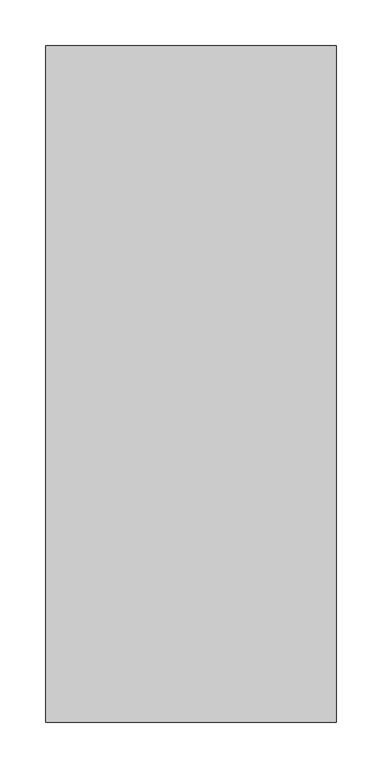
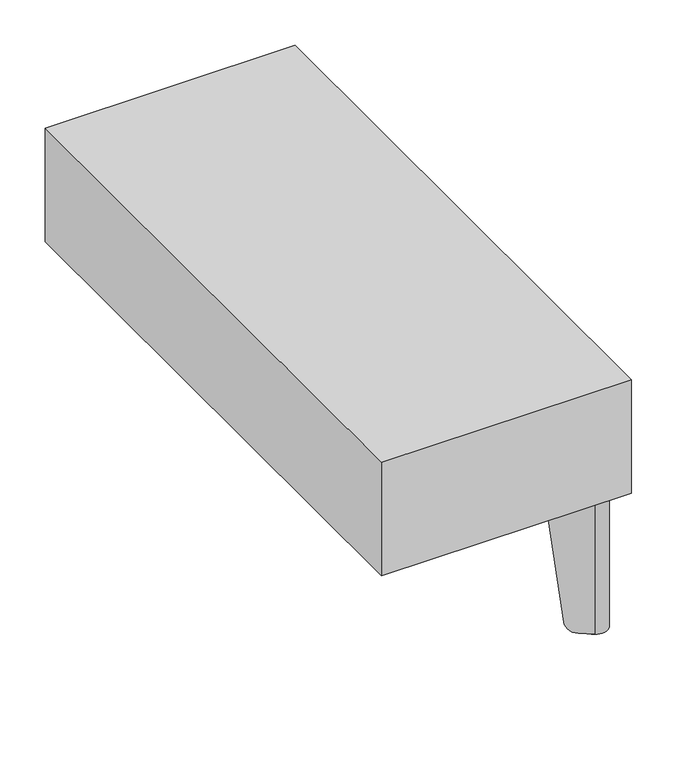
"""IFC4 building model written with IfcOpenShell, lengths in millimetres: furniture geometry, Stance_HC-Flora-Table_Straight : FAT132914E-P."""

from ifc_helpers import new_model, si_unit, point, frame, frame_2d, origin, origin_with_axes, place, context, project, spatial, polyline, circle_curve, ellipse_curve, trimmed, segment, composite_curve, outline, extrude, source, transform, mapped, element, save
from ifc_brep_helpers import plane_surface, cylinder_surface, revolved_surface, advanced_brep


def furniture_cdac94fe(model_context):
    return source(origin(), model_context, "Body", "SolidModel", [
        advanced_brep(
        [(274.3401042, -102.8613619, 193.6877233), (306.2642107, -57.26919, 193.6877233), (285.6391871, -36.6441664, 193.6877233), (240.0470178, -68.568271, 193.6877233), (241.8906556, -71.2012484, 193.6877233), (287.4828248, -39.2771437, 193.6877233), (303.6312333, -55.4255523, 193.6877233), (271.7071268, -101.0177242, 193.6877233), (274.3401042, -102.8613619, 189.1419595), (303.6312333, -55.4255523, 3.1876992), (293.5105238, -69.8793673, 3.1876992), (284.3334277, -82.9855678, 17.1280233), (287.4828248, -39.2771437, 3.1876992), (259.9228092, -58.5749494, 17.1280233), (273.0290098, -49.3978533, 3.1876992), (240.0470178, -68.568271, 189.1419334), (285.6391871, -36.6441664, 3.1876992), (270.7211121, -47.0899556, 3.1876992), (257.6149115, -56.2670517, 17.1280233), (306.2642107, -57.26919, 3.1876992), (286.6413254, -85.2934656, 17.1280233), (295.8184215, -72.187265, 3.1876992)],
        [
            (0, 1),
            (1, 2, circle_curve(frame((294.1333442, -48.7750329, 193.6877233), z_axis=(0.0, 0.0, 1.0), x_axis=(-1.0, 0.0, 0.0)), 14.8090724)),
            (2, 3),
            (3, 4),
            (4, 5),
            (5, 6, circle_curve(frame((294.1333442, -48.7750329, 193.6877233), z_axis=(0.0, 0.0, -1.0), x_axis=(-1.0, 0.0, 0.0)), 11.5947965)),
            (6, 7),
            (7, 0),
            (7, 8),
            (8, 0),
            (6, 9),
            (9, 10),
            (10, 11, ellipse_curve(frame((293.5105238, -69.8793673, 19.0626992), z_axis=(-0.8191509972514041, 0.5735779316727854, 0.0), x_axis=(-0.5735779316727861, -0.8191509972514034, 0.0)), 16.1198923, 15.875)),
            (11, 7),
            (5, 12),
            (12, 9, circle_curve(frame((294.1333442, -48.7750329, 3.1876992), z_axis=(0.0, 0.0, -1.0), x_axis=(-1.0, 0.0, 0.0)), 11.5947965)),
            (4, 13),
            (13, 14, ellipse_curve(frame((273.0290098, -49.3978533, 19.0626992), z_axis=(0.5735779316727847, -0.8191509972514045, 0.0), x_axis=(0.8191509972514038, 0.5735779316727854, 0.0)), 16.1198923, 15.875)),
            (14, 12),
            (3, 15),
            (15, 4),
            (2, 16),
            (16, 17),
            (17, 18, ellipse_curve(frame((270.7211121, -47.0899556, 19.0626992), z_axis=(-0.5735779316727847, 0.8191509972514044, 0.0), x_axis=(0.8191509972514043, 0.573577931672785, 0.0)), 16.1198923, 15.875)),
            (18, 15),
            (1, 19),
            (19, 16, circle_curve(frame((294.1333442, -48.7750329, 3.1876992), z_axis=(0.0, 0.0, 1.0), x_axis=(-1.0, 0.0, 0.0)), 14.8090724)),
            (8, 20),
            (20, 21, ellipse_curve(frame((295.8184215, -72.187265, 19.0626992), z_axis=(0.8191509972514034, -0.5735779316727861, 0.0), x_axis=(-0.5735779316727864, -0.8191509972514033, 0.0)), 16.1198923, 15.875)),
            (21, 19),
            (18, 13),
            (11, 20),
            (21, 10),
            (14, 17),
        ],
        [
            plane_surface(frame((271.7071268, -101.0177242, 193.6877233), z_axis=(0.0, 0.0, 1.0000000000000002), x_axis=(-0.8191509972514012, 0.5735779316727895, 0.0))),
            plane_surface(frame((274.3401042, -102.8613619, 193.6877233), z_axis=(-0.5735779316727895, -0.8191509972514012, 0.0), x_axis=(0.0, 0.0, -1.0))),
            plane_surface(frame((271.7071268, -101.0177242, 193.6877233), z_axis=(-0.8191509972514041, 0.5735779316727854, 0.0), x_axis=(0.0, 0.0, -1.0))),
            revolved_surface(polyline([(282.53854770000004, -48.7750329, 3.1876992), (282.53854770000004, -48.7750329, 193.6877233)]), (294.1333442, -48.7750329, 0.0), (0.0, 0.0, -1.0)),
            plane_surface(frame((287.4828248, -39.2771437, 193.6877233), z_axis=(0.5735779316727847, -0.8191509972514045, 0.0), x_axis=(0.0, 0.0, -1.0))),
            plane_surface(frame((241.8906556, -71.2012484, 193.6877233), z_axis=(-0.8191509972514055, -0.5735779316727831, 0.0), x_axis=(0.0, 0.0, -1.0))),
            plane_surface(frame((240.0470178, -68.568271, 193.6877233), z_axis=(-0.5735779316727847, 0.8191509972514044, 0.0), x_axis=(0.0, 0.0, -1.0))),
            cylinder_surface(frame((294.1333442, -48.7750329, 0.0), z_axis=(0.0, 0.0, 1.0), x_axis=(-1.0, 0.0, 0.0)), 14.8090724),
            plane_surface(frame((306.2642107, -57.26919, 193.6877233), z_axis=(0.8191509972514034, -0.5735779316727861, 0.0), x_axis=(0.0, 0.0, -1.0))),
            plane_surface(frame((251.7311084, -50.3832485, 17.1280233), z_axis=(-0.7018361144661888, -0.7018361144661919, -0.12186934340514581), x_axis=(0.7071067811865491, -0.707106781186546, 0.0))),
            plane_surface(frame((284.2214639, -17.8928931, 3.1876992), z_axis=(0.0, 0.0, -1.0), x_axis=(0.707106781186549, -0.707106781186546, 0.0))),
            cylinder_surface(frame((303.6583998, -80.0272433, 19.0626992), z_axis=(0.7071067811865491, -0.707106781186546, 0.0), x_axis=(-0.707106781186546, -0.7071067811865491, 0.0)), 15.875),
        ],
        [
            (0, [[1, 2, 3, 4, 5, 6, 7, 8]]),
            (1, [[9, 10, -8]]),
            (2, [[11, 12, 13, 14, -7]]),
            (3, [[15, 16, -11, -6]]),
            (4, [[17, 18, 19, -15, -5]]),
            (5, [[20, 21, -4]]),
            (6, [[22, 23, 24, 25, -20, -3]]),
            (7, [[26, 27, -22, -2]]),
            (8, [[-10, 28, 29, 30, -26, -1]]),
            (9, [[-17, -21, -25, 31]]),
            (9, [[-28, -9, -14, 32]]),
            (10, [[-23, -27, -30, 33, -12, -16, -19, 34]]),
            (11, [[-13, -33, -29, -32]]),
            (11, [[-24, -34, -18, -31]]),
        ],
    ),
        extrude(outline(composite_curve([segment(trimmed(circle_curve(frame_2d((292.1, -50.8)), 11.1125), [point((303.2125, -50.8))], [point((280.9875, -50.8))], False, "CARTESIAN"), True, "CONTINUOUS"), segment(trimmed(circle_curve(frame_2d((292.1, -50.8)), 11.1125), [point((280.9875, -50.8))], [point((303.2125, -50.8))], False, "CARTESIAN"), True, "CONTINUOUS")], self_intersect=False)), origin_with_axes(), (0.0, 0.0, 1.0), 3.175),
        extrude(outline(composite_curve([segment(trimmed(circle_curve(frame_2d((295.4524523, -47.4559239)), 15.8749964), [point((294.3450687, -31.6195983))], [point((311.288778, -48.5633073))], False, "CARTESIAN"), True, "CONTINUOUS"), segment(polyline([(311.288778, -48.5633073), (304.2918062, -148.6247029), (274.4414324, -178.4750713), (190.4983323, -152.4100523), (164.4332978, -68.4669439), (194.2836699, -38.6165718), (294.3450687, -31.6195983)]), True, "CONTINUOUS")], self_intersect=False)), frame((0.0, 0.0, 193.6877233), z_axis=(0.0, 0.0, 1.0), x_axis=(1.0, 0.0, 0.0)), (0.0, 0.0, 1.0), 4.7751809),
        advanced_brep(
        [(274.3401042, -659.1386381, 193.6877233), (271.7071268, -660.9822758, 193.6877233), (303.6312333, -706.5744477, 193.6877233), (287.4828248, -722.7228563, 193.6877233), (241.8906556, -690.7987516, 193.6877233), (240.0470178, -693.431729, 193.6877233), (285.6391871, -725.3558336, 193.6877233), (306.2642107, -704.73081, 193.6877233), (274.3401042, -659.1386381, 189.1419595), (284.3334277, -679.0144322, 17.1280233), (293.5105238, -692.1206327, 3.1876992), (303.6312333, -706.5744477, 3.1876992), (287.4828248, -722.7228563, 3.1876992), (273.0290098, -712.6021467, 3.1876992), (259.9228092, -703.4250506, 17.1280233), (240.0470178, -693.431729, 189.1419334), (257.6149115, -705.7329483, 17.1280233), (270.7211121, -714.9100444, 3.1876992), (285.6391871, -725.3558336, 3.1876992), (306.2642107, -704.73081, 3.1876992), (295.8184215, -689.812735, 3.1876992), (286.6413254, -676.7065344, 17.1280233)],
        [
            (0, 1),
            (1, 2),
            (2, 3, circle_curve(frame((294.1333442, -713.2249671, 193.6877233), z_axis=(0.0, 0.0, -1.0), x_axis=(-1.0, 0.0, 0.0)), 11.5947965)),
            (3, 4),
            (4, 5),
            (5, 6),
            (6, 7, circle_curve(frame((294.1333442, -713.2249671, 193.6877233), z_axis=(0.0, 0.0, 1.0), x_axis=(-1.0, 0.0, 0.0)), 14.8090724)),
            (7, 0),
            (0, 8),
            (8, 1),
            (1, 9),
            (9, 10, ellipse_curve(frame((293.5105238, -692.1206327, 19.0626992), z_axis=(-0.8191509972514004, -0.5735779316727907, 0.0), x_axis=(-0.5735779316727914, 0.8191509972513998, 0.0)), 16.1198923, 15.875)),
            (10, 11),
            (11, 2),
            (11, 12, circle_curve(frame((294.1333442, -713.2249671, 3.1876992), z_axis=(0.0, 0.0, -1.0), x_axis=(-1.0, 0.0, 0.0)), 11.5947965)),
            (12, 3),
            (12, 13),
            (13, 14, ellipse_curve(frame((273.0290098, -712.6021467, 19.0626992), z_axis=(0.5735779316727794, 0.8191509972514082, 0.0), x_axis=(0.8191509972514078, -0.5735779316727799, 0.0)), 16.1198923, 15.875)),
            (14, 4),
            (4, 15),
            (15, 5),
            (15, 16),
            (16, 17, ellipse_curve(frame((270.7211121, -714.9100444, 19.0626992), z_axis=(-0.5735779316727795, -0.8191509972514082, 0.0), x_axis=(0.8191509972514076, -0.5735779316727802, 0.0)), 16.1198923, 15.875)),
            (17, 18),
            (18, 6),
            (18, 19, circle_curve(frame((294.1333442, -713.2249671, 3.1876992), z_axis=(0.0, 0.0, 1.0), x_axis=(-1.0, 0.0, 0.0)), 14.8090724)),
            (19, 7),
            (19, 20),
            (20, 21, ellipse_curve(frame((295.8184215, -689.812735, 19.0626992), z_axis=(0.8191509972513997, 0.5735779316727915, 0.0), x_axis=(-0.573577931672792, 0.8191509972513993, 0.0)), 16.1198923, 15.875)),
            (21, 8),
            (14, 16),
            (21, 9),
            (17, 13),
            (10, 20),
        ],
        [
            plane_surface(frame((271.7071268, -660.9822758, 193.6877233), z_axis=(0.0, 0.0, 0.9999999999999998), x_axis=(-0.8191509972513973, -0.5735779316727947, 0.0))),
            plane_surface(frame((274.3401042, -659.1386381, 193.6877233), z_axis=(-0.5735779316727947, 0.8191509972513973, 0.0), x_axis=(0.0, 0.0, -1.0))),
            plane_surface(frame((271.7071268, -660.9822758, 193.6877233), z_axis=(-0.8191509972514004, -0.5735779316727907, 0.0), x_axis=(0.0, 0.0, -1.0))),
            revolved_surface(polyline([(282.53854770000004, -713.2249671, 3.1876992), (282.53854770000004, -713.2249671, 193.6877233)]), (294.1333442, -713.2249671, 0.0), (0.0, 0.0, -1.0)),
            plane_surface(frame((287.4828248, -722.7228563, 193.6877233), z_axis=(0.5735779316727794, 0.8191509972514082, 0.0), x_axis=(0.0, 0.0, -1.0))),
            plane_surface(frame((241.8906556, -690.7987516, 193.6877233), z_axis=(-0.8191509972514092, 0.5735779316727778, 0.0), x_axis=(0.0, 0.0, -1.0))),
            plane_surface(frame((240.0470178, -693.431729, 193.6877233), z_axis=(-0.5735779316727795, -0.8191509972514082, 0.0), x_axis=(0.0, 0.0, -1.0))),
            cylinder_surface(frame((294.1333442, -713.2249671, 0.0), z_axis=(0.0, 0.0, 1.0), x_axis=(-1.0, 0.0, 0.0)), 14.8090724),
            plane_surface(frame((306.2642107, -704.73081, 193.6877233), z_axis=(0.8191509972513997, 0.5735779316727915, 0.0), x_axis=(0.0, 0.0, -1.0))),
            plane_surface(frame((251.7311084, -711.6167515, 17.1280233), z_axis=(-0.7018361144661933, 0.7018361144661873, -0.12186934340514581), x_axis=(0.7071067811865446, 0.7071067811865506, 0.0))),
            plane_surface(frame((284.2214639, -744.1071069, 3.1876992), z_axis=(0.0, 0.0, -1.0), x_axis=(0.7071067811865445, 0.7071067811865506, 0.0))),
            cylinder_surface(frame((303.6583998, -681.9727567, 19.0626992), z_axis=(0.7071067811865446, 0.7071067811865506, 0.0), x_axis=(-0.7071067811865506, 0.7071067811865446, 0.0)), 15.875),
        ],
        [
            (0, [[1, 2, 3, 4, 5, 6, 7, 8]]),
            (1, [[-1, 9, 10]]),
            (2, [[-2, 11, 12, 13, 14]]),
            (3, [[-3, -14, 15, 16]]),
            (4, [[-4, -16, 17, 18, 19]]),
            (5, [[-5, 20, 21]]),
            (6, [[-6, -21, 22, 23, 24, 25]]),
            (7, [[-7, -25, 26, 27]]),
            (8, [[-8, -27, 28, 29, 30, -9]]),
            (9, [[31, -22, -20, -19]]),
            (9, [[32, -11, -10, -30]]),
            (10, [[33, -17, -15, -13, 34, -28, -26, -24]]),
            (11, [[-31, -18, -33, -23]]),
            (11, [[-32, -29, -34, -12]]),
        ],
    ),
        extrude(outline(composite_curve([segment(trimmed(circle_curve(frame_2d((292.1, -711.2)), 11.1125), [point((303.2125, -711.2))], [point((280.9875, -711.2))], False, "CARTESIAN"), True, "CONTINUOUS"), segment(trimmed(circle_curve(frame_2d((292.1, -711.2)), 11.1125), [point((280.9875, -711.2))], [point((303.2125, -711.2))], False, "CARTESIAN"), True, "CONTINUOUS")], self_intersect=False)), origin_with_axes(), (0.0, 0.0, 1.0), 3.175),
        extrude(outline(composite_curve([segment(polyline([(294.3450687, -730.3804017), (194.2836699, -723.3834282), (164.4332978, -693.5330561), (190.4983323, -609.5899477), (274.4414324, -583.5249287), (304.2918062, -613.3752971), (311.288778, -713.4366927)]), True, "CONTINUOUS"), segment(trimmed(circle_curve(frame_2d((295.4524523, -714.5440761)), 15.8749964), [point((311.288778, -713.4366927))], [point((294.3450687, -730.3804017))], False, "CARTESIAN"), True, "CONTINUOUS")], self_intersect=False)), frame((0.0, 0.0, 193.6877233), z_axis=(0.0, 0.0, 1.0), x_axis=(1.0, 0.0, 0.0)), (0.0, 0.0, 1.0), 4.7751809),
        extrude(outline(polyline([(317.5, -11.1125), (317.5, -750.8875), (0.0, -750.8875), (0.0, -11.1125), (317.5, -11.1125)])), frame((0.0, 0.0, 196.85), z_axis=(0.0, 0.0, 1.0), x_axis=(1.0, 0.0, 0.0)), (0.0, 0.0, 1.0), 152.399991),
    ])


if __name__ == "__main__":
    model = new_model("IFC4")
    model_context = context("Model", 3, world=origin())
    ifc_project = project(units=[si_unit("LENGTHUNIT", "METRE", prefix="MILLI")], contexts=[model_context])
    site = spatial("IfcSite", under=ifc_project)
    building = spatial("IfcBuilding", under=site)
    placement = place(None, origin())
    furniture_shape = furniture_cdac94fe(model_context)
    element("IfcFurniture", 1, ObjectType="Stance_HC-Flora-Table_Straight : FAT132914E-P", at=placement, inside=building, context=model_context, shape_type="MappedRepresentation", body=[
        mapped(furniture_shape, transform((0.0, 0.0, 0.0), x_axis=(1.0, 0.0, 0.0), y_axis=(0.0, 1.0, 0.0), z_axis=(0.0, 0.0, 1.0))),
    ])
    save(model, "model.ifc")
